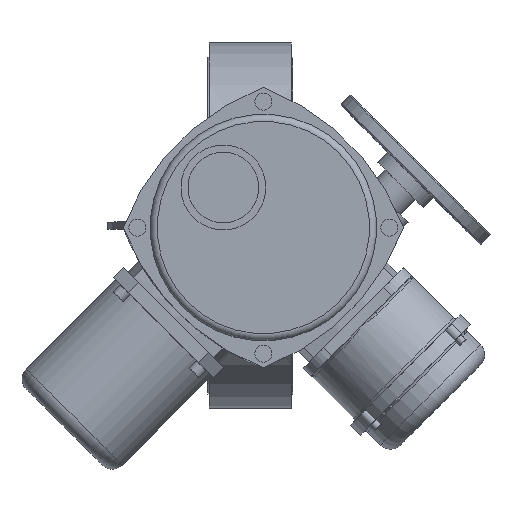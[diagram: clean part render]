
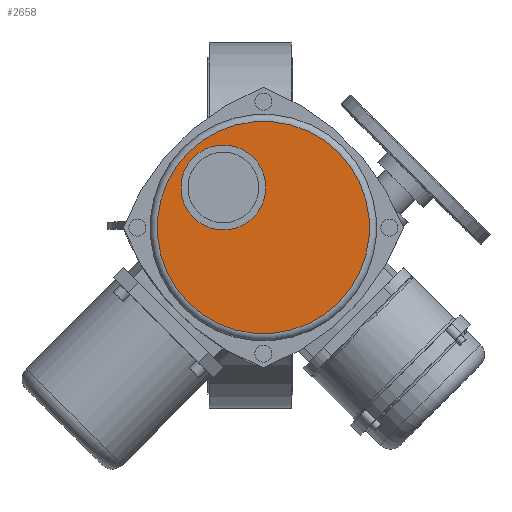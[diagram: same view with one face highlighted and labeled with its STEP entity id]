
A CAD part, top view. The second image highlights one B-rep face of the part: STEP entity #2658.
In plain terms, the highlighted planar face has unit normal (0, 0, 1).
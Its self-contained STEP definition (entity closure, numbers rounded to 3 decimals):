
#2658=ADVANCED_FACE('',(#5605,#5607),#5609,.T.);
#5605=FACE_BOUND('',#5606,.T.);
#5606=EDGE_LOOP('',(#7030));
#5607=FACE_BOUND('',#5608,.T.);
#5608=EDGE_LOOP('',(#7031));
#5609=PLANE('',#5610);
#5610=AXIS2_PLACEMENT_3D('',#5611,#5612,#5613);
#5611=CARTESIAN_POINT('',(9.192,-2.121,435.));
#5612=DIRECTION('',(0.,0.,1.));
#5613=DIRECTION('',(0.707,0.707,0.));
#7030=ORIENTED_EDGE('',*,*,#7666,.T.);
#7031=ORIENTED_EDGE('',*,*,#7709,.F.);
#7666=EDGE_CURVE('',#8742,#8742,#8743,.T.);
#7709=EDGE_CURVE('',#8810,#8810,#8811,.T.);
#8742=VERTEX_POINT('',#13617);
#8743=CIRCLE('',#13618,75.);
#8810=VERTEX_POINT('',#13810);
#8811=CIRCLE('',#13811,30.);
#13617=CARTESIAN_POINT('',(62.225,50.912,435.));
#13618=AXIS2_PLACEMENT_3D('',#13619,#13620,#13621);
#13619=CARTESIAN_POINT('',(9.192,-2.121,435.));
#13620=DIRECTION('',(0.,0.,1.));
#13621=DIRECTION('',(0.707,0.707,0.));
#13810=CARTESIAN_POINT('',(2.121,47.376,435.));
#13811=AXIS2_PLACEMENT_3D('',#13812,#13813,#13814);
#13812=CARTESIAN_POINT('',(-19.092,26.163,435.));
#13813=DIRECTION('',(0.,0.,1.));
#13814=DIRECTION('',(0.707,0.707,0.));
